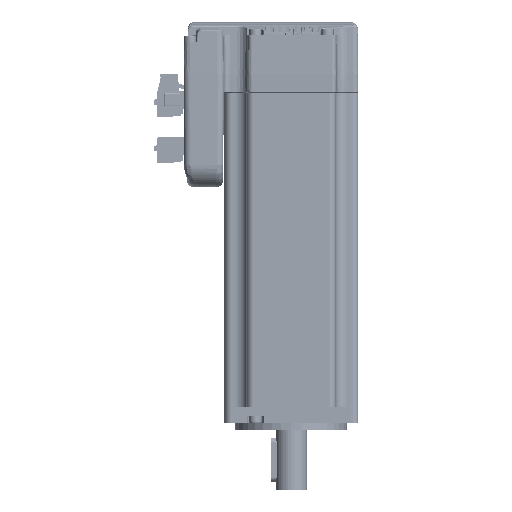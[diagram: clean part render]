
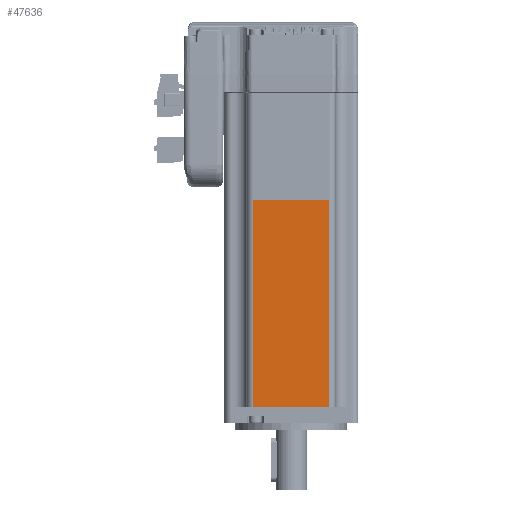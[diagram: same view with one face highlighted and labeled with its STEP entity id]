
A CAD part, left-side view. The second image highlights one B-rep face of the part: STEP entity #47636.
In plain terms, the highlighted planar face has unit normal (-1, 0, 0).
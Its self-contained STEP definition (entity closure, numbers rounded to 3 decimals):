
#12777 = DIRECTION ( 'NONE',  ( 1., 0., 0. ) ) ;
#12931 = EDGE_CURVE ( 'NONE', #218942, #29562, #82366, .T. ) ;
#22248 = ORIENTED_EDGE ( 'NONE', *, *, #12931, .F. ) ;
#23205 = EDGE_CURVE ( 'NONE', #29562, #183566, #176585, .T. ) ;
#29562 = VERTEX_POINT ( 'NONE', #213460 ) ;
#31710 = CARTESIAN_POINT ( 'NONE',  ( -36.911, 21.255, -12.6 ) ) ;
#32475 = AXIS2_PLACEMENT_3D ( 'NONE', #102035, #12777, #136968 ) ;
#39047 = DIRECTION ( 'NONE',  ( 0., 1., 0. ) ) ;
#47636 = ADVANCED_FACE ( 'NONE', ( #119730 ), #229475, .F. ) ;
#54167 = EDGE_CURVE ( 'NONE', #162590, #218942, #219555, .T. ) ;
#66322 = ORIENTED_EDGE ( 'NONE', *, *, #54167, .F. ) ;
#71400 = EDGE_LOOP ( 'NONE', ( #22248, #66322, #126677, #119188 ) ) ;
#82366 = LINE ( 'NONE', #146373, #151708 ) ;
#89912 = LINE ( 'NONE', #92626, #187011 ) ;
#92626 = CARTESIAN_POINT ( 'NONE',  ( -36.911, 31.255, -12.6 ) ) ;
#102035 = CARTESIAN_POINT ( 'NONE',  ( -36.911, 21.255, 50.4 ) ) ;
#119188 = ORIENTED_EDGE ( 'NONE', *, *, #23205, .F. ) ;
#119730 = FACE_OUTER_BOUND ( 'NONE', #71400, .T. ) ;
#126677 = ORIENTED_EDGE ( 'NONE', *, *, #157263, .F. ) ;
#129349 = VECTOR ( 'NONE', #145007, 1000. ) ;
#133764 = CARTESIAN_POINT ( 'NONE',  ( -36.911, 21.255, 80.4 ) ) ;
#136968 = DIRECTION ( 'NONE',  ( 0., 1., 0. ) ) ;
#145007 = DIRECTION ( 'NONE',  ( 0., 0., -1. ) ) ;
#146373 = CARTESIAN_POINT ( 'NONE',  ( -36.911, 21.255, 80.4 ) ) ;
#151708 = VECTOR ( 'NONE', #220274, 1000. ) ;
#152664 = DIRECTION ( 'NONE',  ( 0., 0., 1. ) ) ;
#157263 = EDGE_CURVE ( 'NONE', #183566, #162590, #89912, .T. ) ;
#162590 = VERTEX_POINT ( 'NONE', #31710 ) ;
#174801 = VECTOR ( 'NONE', #152664, 1000. ) ;
#176585 = LINE ( 'NONE', #216570, #129349 ) ;
#183566 = VERTEX_POINT ( 'NONE', #199083 ) ;
#187011 = VECTOR ( 'NONE', #39047, 1000. ) ;
#199083 = CARTESIAN_POINT ( 'NONE',  ( -36.911, -12.745, -12.6 ) ) ;
#205663 = CARTESIAN_POINT ( 'NONE',  ( -36.911, 21.255, 50.4 ) ) ;
#213460 = CARTESIAN_POINT ( 'NONE',  ( -36.911, -12.745, 80.4 ) ) ;
#216570 = CARTESIAN_POINT ( 'NONE',  ( -36.911, -12.745, 50.4 ) ) ;
#218942 = VERTEX_POINT ( 'NONE', #133764 ) ;
#219555 = LINE ( 'NONE', #205663, #174801 ) ;
#220274 = DIRECTION ( 'NONE',  ( 0., -1., 0. ) ) ;
#229475 = PLANE ( 'NONE',  #32475 ) ;
